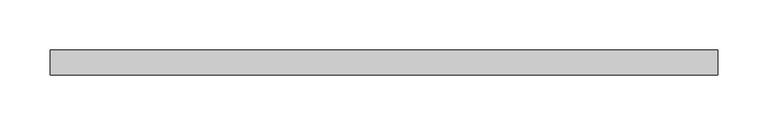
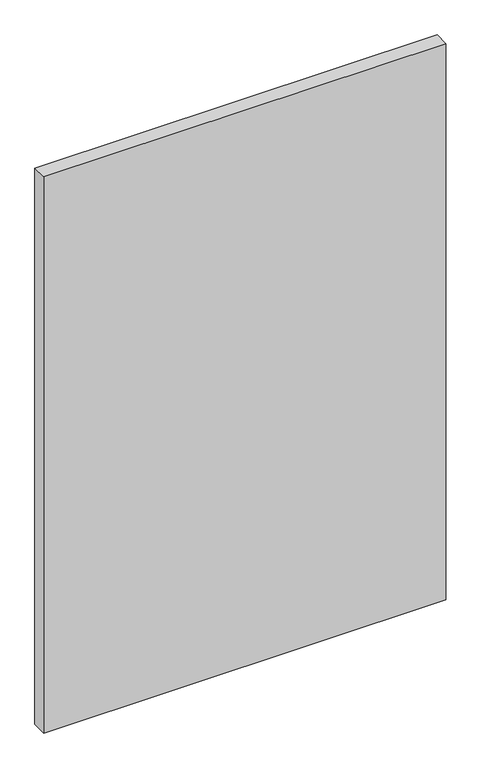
"""IFC4 building model written with IfcOpenShell, lengths in millimetres: plate geometry, システム パネル1 : ガラス."""

from ifc_helpers import new_model, si_unit, origin, origin_with_axes, place, context, project, spatial, polyline, outline, extrude, source, transform, mapped, element, save


def plate_bb3d00ed(model_context):
    return source(origin(), model_context, "Body", "SweptSolid", [
        extrude(outline(polyline([(333.3333333, 24.5), (-333.3333333, 24.5), (-333.3333333, 49.5), (333.3333333, 49.5), (333.3333333, 24.5)])), origin_with_axes(), (0.0, 0.0, 1.0), 975.0),
    ])


if __name__ == "__main__":
    model = new_model("IFC4")
    model_context = context("Model", 3, world=origin())
    ifc_project = project(units=[si_unit("LENGTHUNIT", "METRE", prefix="MILLI")], contexts=[model_context])
    site = spatial("IfcSite", under=ifc_project)
    building = spatial("IfcBuilding", under=site)
    placement = place(None, origin())
    plate_shape = plate_bb3d00ed(model_context)
    element("IfcPlate", 1, ObjectType="システム パネル1 : ガラス", at=placement, inside=building, context=model_context, shape_type="MappedRepresentation", body=[
        mapped(plate_shape, transform((0.0, 0.0, 0.0), x_axis=(1.0, 0.0, 0.0), y_axis=(0.0, 1.0, 0.0), z_axis=(0.0, 0.0, 1.0))),
    ])
    save(model, "model.ifc")
